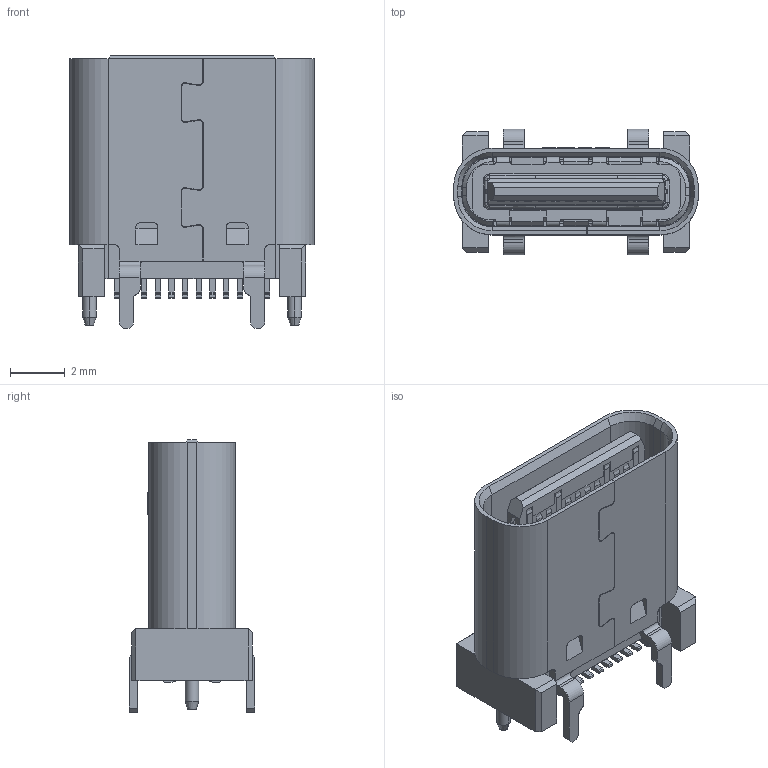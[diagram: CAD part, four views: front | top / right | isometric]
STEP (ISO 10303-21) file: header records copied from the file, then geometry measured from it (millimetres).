
FILE_DESCRIPTION (( 'STEP AP203' ), '1' );
FILE_NAME ('U5195-24PN8.8L.STEP', '2026-09-21T07:46:48', ( '' ), ( '' ), 'SwSTEP 2.0', 'SolidWorks 2024', '' );
FILE_SCHEMA (( 'CONFIG_CONTROL_DESIGN' ));
Length unit declared in the file: millimetre
Products named in the file (1): U5195-24PN8.8L
Bounding box: 8.94 x 4.6 x 9.95 mm (x, y, z)
Volume: 200.4 mm3; surface area: 1123.9 mm2
Topology: 30 solids, 30 shells, 2390 faces, 6927 edges, 4586 vertices
Faces by surface type: plane 1758, cylinder 565, bspline 29, cone 25, torus 13
Entity records: 80365 total; most frequent: CARTESIAN_POINT 17234, ORIENTED_EDGE 13854, DIRECTION 12168, EDGE_CURVE 6927, VECTOR 5390, LINE 5390, VERTEX_POINT 4586, AXIS2_PLACEMENT_3D 3389
